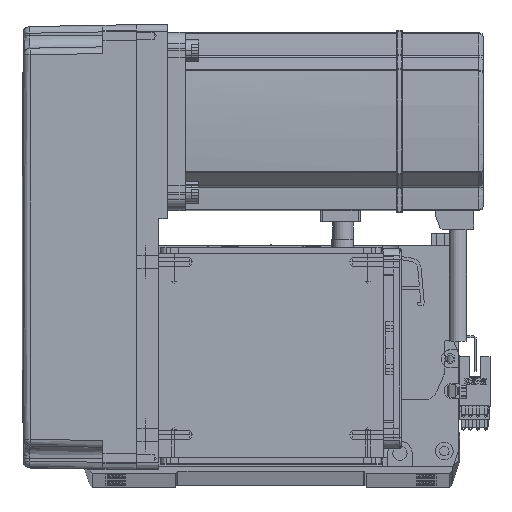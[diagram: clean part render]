
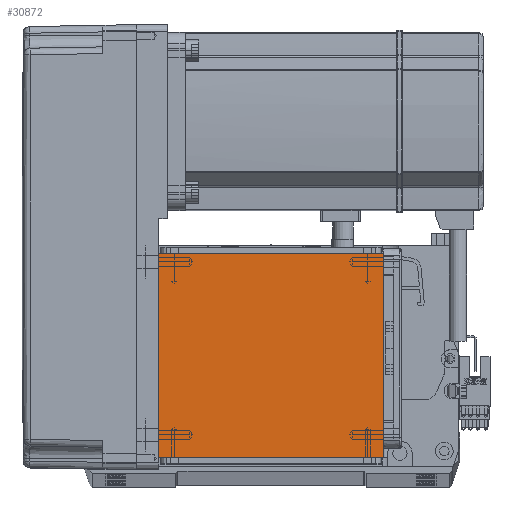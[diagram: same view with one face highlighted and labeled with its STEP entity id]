
A CAD part, top view. The second image highlights one B-rep face of the part: STEP entity #30872.
In plain terms, the highlighted planar face has unit normal (0, 0, 1).
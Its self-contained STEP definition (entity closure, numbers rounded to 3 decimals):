
#1674 = ORIENTED_EDGE ( 'NONE', *, *, #19275, .T. ) ;
#4166 = VECTOR ( 'NONE', #31778, 1000. ) ;
#4241 = CARTESIAN_POINT ( 'NONE',  ( 50.5, 20., 115. ) ) ;
#7019 = ORIENTED_EDGE ( 'NONE', *, *, #33001, .F. ) ;
#7695 = DIRECTION ( 'NONE',  ( 0., 0., 1. ) ) ;
#8097 = VECTOR ( 'NONE', #27799, 1000. ) ;
#10467 = CARTESIAN_POINT ( 'NONE',  ( 50.5, 111.5, 115. ) ) ;
#10485 = ORIENTED_EDGE ( 'NONE', *, *, #55255, .F. ) ;
#13433 = EDGE_LOOP ( 'NONE', ( #10485, #1674, #7019, #47931 ) ) ;
#18951 = VECTOR ( 'NONE', #53533, 1000. ) ;
#19275 = EDGE_CURVE ( 'NONE', #25358, #65287, #46241, .T. ) ;
#25142 = CARTESIAN_POINT ( 'NONE',  ( -70.004, 20., 115. ) ) ;
#25358 = VERTEX_POINT ( 'NONE', #65852 ) ;
#27799 = DIRECTION ( 'NONE',  ( 1., 0., 0. ) ) ;
#28049 = CARTESIAN_POINT ( 'NONE',  ( 50.5, 122., 115. ) ) ;
#28159 = LINE ( 'NONE', #25142, #56969 ) ;
#30463 = CARTESIAN_POINT ( 'NONE',  ( -50.5, 20., 115. ) ) ;
#30872 = ADVANCED_FACE ( 'NONE', ( #53919 ), #59573, .T. ) ;
#31778 = DIRECTION ( 'NONE',  ( 0., -1., 0. ) ) ;
#33001 = EDGE_CURVE ( 'NONE', #61703, #65287, #28159, .T. ) ;
#36170 = DIRECTION ( 'NONE',  ( -1., 0., 0. ) ) ;
#38833 = CARTESIAN_POINT ( 'NONE',  ( 0., 0., 115. ) ) ;
#43388 = CARTESIAN_POINT ( 'NONE',  ( -70.004, 111.5, 115. ) ) ;
#44386 = DIRECTION ( 'NONE',  ( 1., 0., 0. ) ) ;
#46241 = LINE ( 'NONE', #63726, #4166 ) ;
#47931 = ORIENTED_EDGE ( 'NONE', *, *, #60294, .T. ) ;
#48616 = LINE ( 'NONE', #28049, #18951 ) ;
#49108 = VERTEX_POINT ( 'NONE', #10467 ) ;
#53533 = DIRECTION ( 'NONE',  ( 0., 1., 0. ) ) ;
#53919 = FACE_OUTER_BOUND ( 'NONE', #13433, .T. ) ;
#55255 = EDGE_CURVE ( 'NONE', #25358, #49108, #64179, .T. ) ;
#56969 = VECTOR ( 'NONE', #36170, 1000. ) ;
#57647 = AXIS2_PLACEMENT_3D ( 'NONE', #38833, #7695, #44386 ) ;
#59573 = PLANE ( 'NONE',  #57647 ) ;
#60294 = EDGE_CURVE ( 'NONE', #61703, #49108, #48616, .T. ) ;
#61703 = VERTEX_POINT ( 'NONE', #4241 ) ;
#63726 = CARTESIAN_POINT ( 'NONE',  ( -50.5, 122., 115. ) ) ;
#64179 = LINE ( 'NONE', #43388, #8097 ) ;
#65287 = VERTEX_POINT ( 'NONE', #30463 ) ;
#65852 = CARTESIAN_POINT ( 'NONE',  ( -50.5, 111.5, 115. ) ) ;
